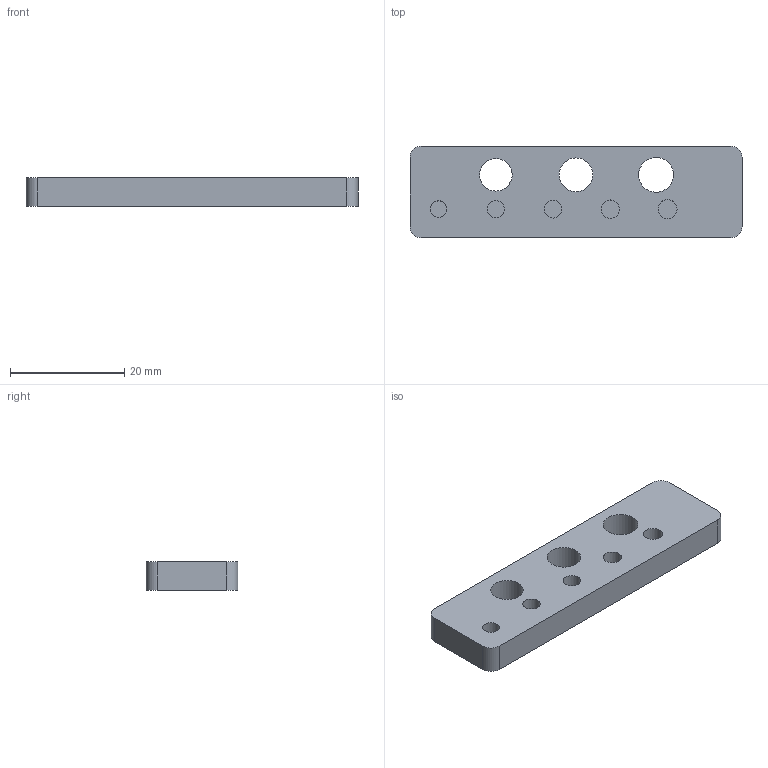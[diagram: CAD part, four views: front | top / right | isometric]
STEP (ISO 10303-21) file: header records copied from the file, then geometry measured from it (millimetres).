
FILE_DESCRIPTION(('Open CASCADE Model'),'2;1');
FILE_NAME('Open CASCADE Shape Model','2026-10-05T20:28:07',('Author'),( 'Open CASCADE'),'Open CASCADE STEP processor 7.9','Open CASCADE 7.9' ,'Unknown');
FILE_SCHEMA(('AUTOMOTIVE_DESIGN { 1 0 10303 214 1 1 1 1 }'));
Length unit declared in the file: millimetre
Products named in the file (1): Open CASCADE STEP translator 7.9 4
Bounding box: 58 x 16 x 5 mm (x, y, z)
Volume: 4083.8 mm3; surface area: 2851.4 mm2
Topology: 1 solids, 1 shells, 23 faces, 48 edges, 32 vertices
Faces by surface type: cylinder 12, plane 11
Full cylindrical faces by diameter (mm): 2.9 x1, 3 x1, 3.1 x1, 3.2 x1, 3.3 x1, 5.7 x1, 5.9 x1, 6.1 x1
Entity records: 1317 total; most frequent: CARTESIAN_POINT 290, DIRECTION 201, ORIENTED_EDGE 96, LINE 96, VECTOR 96, PCURVE 96, DEFINITIONAL_REPRESENTATION 96, AXIS2_PLACEMENT_3D 48
